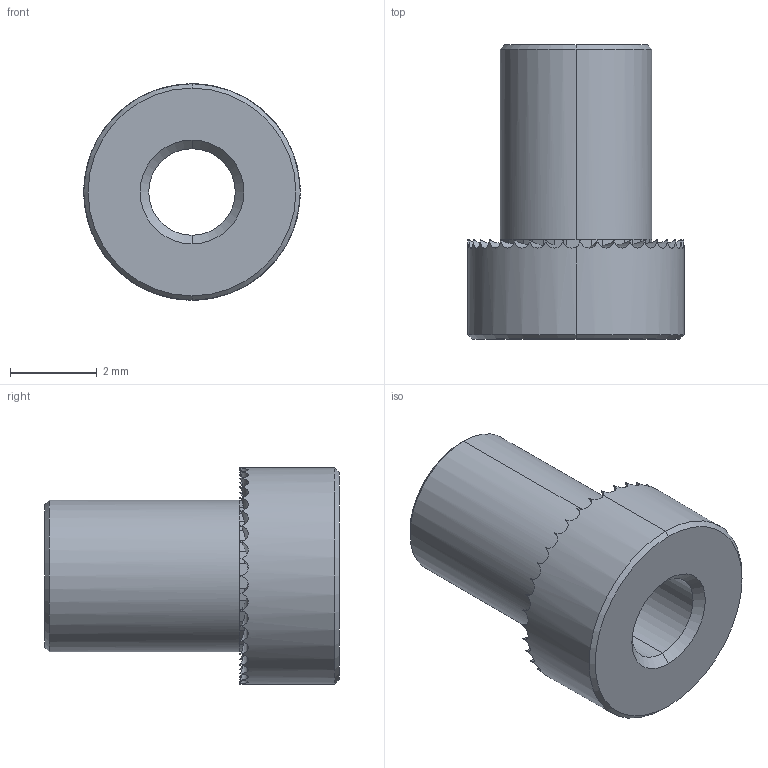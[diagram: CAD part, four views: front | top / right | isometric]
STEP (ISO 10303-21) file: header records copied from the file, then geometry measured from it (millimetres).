
FILE_DESCRIPTION (( 'STEP AP203' ), '1' );
FILE_NAME ('P0829.020-08G-ZP.step', '2019-03-21T22:10:27', ( '' ), ( '' ), 'SwSTEP 2.0', 'SolidWorks 2017', '' );
FILE_SCHEMA (( 'CONFIG_CONTROL_DESIGN' ));
Length unit declared in the file: millimetre
Products named in the file (1): P0829.020-08G-ZP
Bounding box: 5 x 6.8 x 5 mm (x, y, z)
Volume: 65 mm3; surface area: 160.3 mm2
Topology: 1 solids, 1 shells, 172 faces, 424 edges, 254 vertices
Faces by surface type: plane 119, cylinder 45, cone 8
Entity records: 5343 total; most frequent: CARTESIAN_POINT 1317, ORIENTED_EDGE 848, DIRECTION 825, EDGE_CURVE 424, AXIS2_PLACEMENT_3D 308, VERTEX_POINT 254, LINE 209, VECTOR 209
